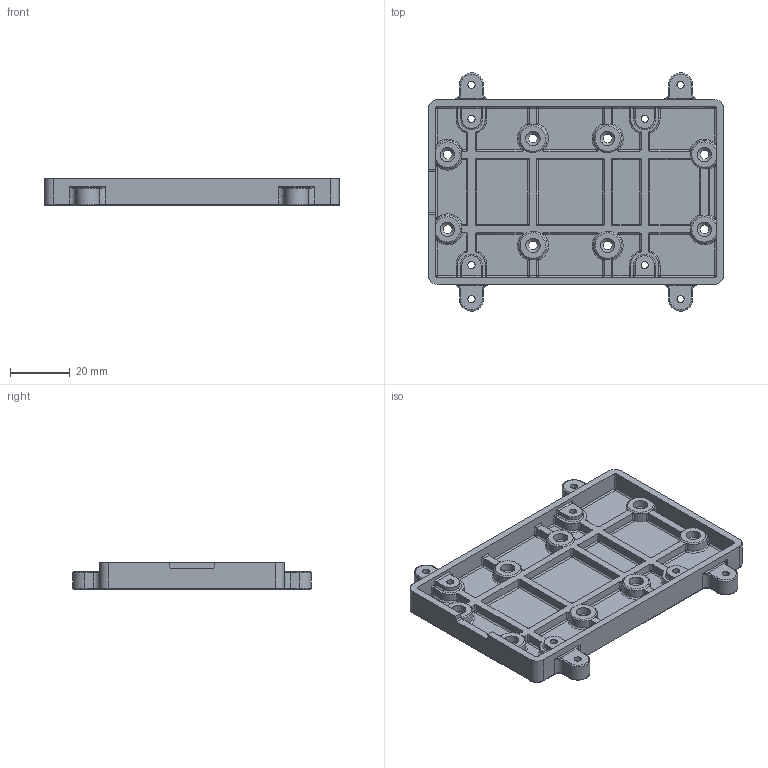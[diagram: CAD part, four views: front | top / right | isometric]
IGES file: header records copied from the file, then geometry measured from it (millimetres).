
Global section: file name: Bottom; native system: unknown; preprocessor: unknown; author: unknown; organization: unknown; date: 20210726.150351; units: millimetre
Bounding box: 98.8 x 79.79 x 9 mm (x, y, z)
Volume: 25666.6 mm3; surface area: 20742.1 mm2
Topology: 1 solids, 1 shells, 587 faces, 1341 edges, 751 vertices
Faces by surface type: bspline 587
